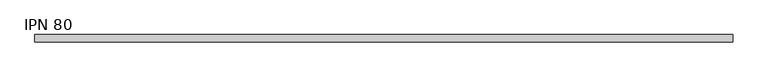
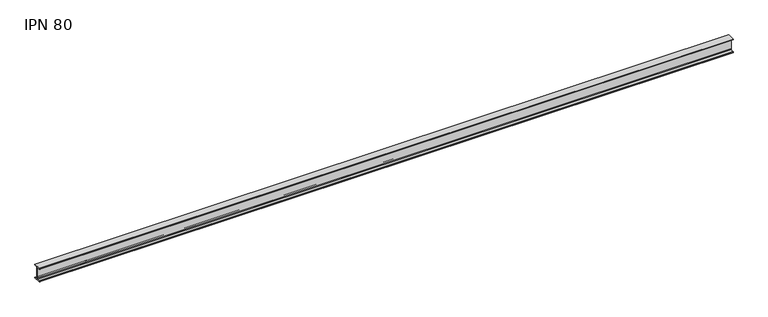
"""IFC4 building model written with IfcOpenShell, lengths in millimetres: beam geometry, IPN - Secciones en I con alas cónicas : IPN 80."""

from ifc_helpers import new_model, si_unit, point, frame, frame_2d, origin, place, context, project, spatial, polyline, circle_curve, trimmed, segment, composite_curve, outline, extrude, source, transform, mapped, element, save


def ipn_80_898660c7(model_context):
    return source(origin(), model_context, "Body", "SweptSolid", [
        extrude(outline(composite_curve([segment(polyline([(21.0, 40.0), (21.0, 37.5704306)]), True, "CONTINUOUS"), segment(trimmed(circle_curve(frame_2d((18.7, 37.5704306)), 2.3), [point((21.0, 37.5704306))], [point((19.01889, 35.2926446))], False, "CARTESIAN"), True, "CONTINUOUS"), segment(polyline([(19.01889, 35.2926446), (5.3092734, 33.3732983)]), True, "CONTINUOUS"), segment(trimmed(circle_curve(frame_2d((5.85, 29.5109655)), 3.9), [point((5.3092734, 33.3732983))], [point((1.95, 29.5109655))], True, "CARTESIAN"), True, "CONTINUOUS"), segment(polyline([(1.95, 29.5109655), (1.95, -29.5109655)]), True, "CONTINUOUS"), segment(trimmed(circle_curve(frame_2d((5.85, -29.5109655)), 3.9), [point((1.95, -29.5109655))], [point((5.3092734, -33.3732983))], True, "CARTESIAN"), True, "CONTINUOUS"), segment(polyline([(5.3092734, -33.3732983), (19.01889, -35.2926446)]), True, "CONTINUOUS"), segment(trimmed(circle_curve(frame_2d((18.7, -37.5704306)), 2.3), [point((19.01889, -35.2926446))], [point((21.0, -37.5704306))], False, "CARTESIAN"), True, "CONTINUOUS"), segment(polyline([(21.0, -37.5704306), (21.0, -40.0), (-21.0, -40.0), (-21.0, -37.5704306)]), True, "CONTINUOUS"), segment(trimmed(circle_curve(frame_2d((-18.7, -37.5704306)), 2.3), [point((-21.0, -37.5704306))], [point((-19.01889, -35.2926446))], False, "CARTESIAN"), True, "CONTINUOUS"), segment(polyline([(-19.01889, -35.2926446), (-5.3092734, -33.3732983)]), True, "CONTINUOUS"), segment(trimmed(circle_curve(frame_2d((-5.85, -29.5109655)), 3.9), [point((-5.3092734, -33.3732983))], [point((-1.95, -29.5109655))], True, "CARTESIAN"), True, "CONTINUOUS"), segment(polyline([(-1.95, -29.5109655), (-1.95, 29.5109655)]), True, "CONTINUOUS"), segment(trimmed(circle_curve(frame_2d((-5.85, 29.5109655)), 3.9), [point((-1.95, 29.5109655))], [point((-5.3092734, 33.3732983))], True, "CARTESIAN"), True, "CONTINUOUS"), segment(polyline([(-5.3092734, 33.3732983), (-19.01889, 35.2926446)]), True, "CONTINUOUS"), segment(trimmed(circle_curve(frame_2d((-18.7, 37.5704306)), 2.3), [point((-19.01889, 35.2926446))], [point((-21.0, 37.5704306))], False, "CARTESIAN"), True, "CONTINUOUS"), segment(polyline([(-21.0, 37.5704306), (-21.0, 40.0), (21.0, 40.0)]), True, "CONTINUOUS")], self_intersect=False)), frame((-1940.5, 0.0, 0.0), z_axis=(1.0, 0.0, 0.0), x_axis=(0.0, 1.0, 0.0)), (0.0, 0.0, 1.0), 3894.0),
    ])


if __name__ == "__main__":
    model = new_model("IFC4")
    model_context = context("Model", 3, world=origin())
    ifc_project = project(units=[si_unit("LENGTHUNIT", "METRE", prefix="MILLI")], contexts=[model_context])
    site = spatial("IfcSite", under=ifc_project)
    building = spatial("IfcBuilding", under=site)
    placement = place(None, origin())
    ipn_80_shape = ipn_80_898660c7(model_context)
    element("IfcBeam", 1, ObjectType="IPN - Secciones en I con alas cónicas : IPN 80", at=placement, inside=building, context=model_context, shape_type="MappedRepresentation", body=[
        mapped(ipn_80_shape, transform((0.0, 0.0, 0.0), x_axis=(1.0, 0.0, 0.0), y_axis=(0.0, 1.0, 0.0), z_axis=(0.0, 0.0, 1.0))),
    ])
    save(model, "model.ifc")
